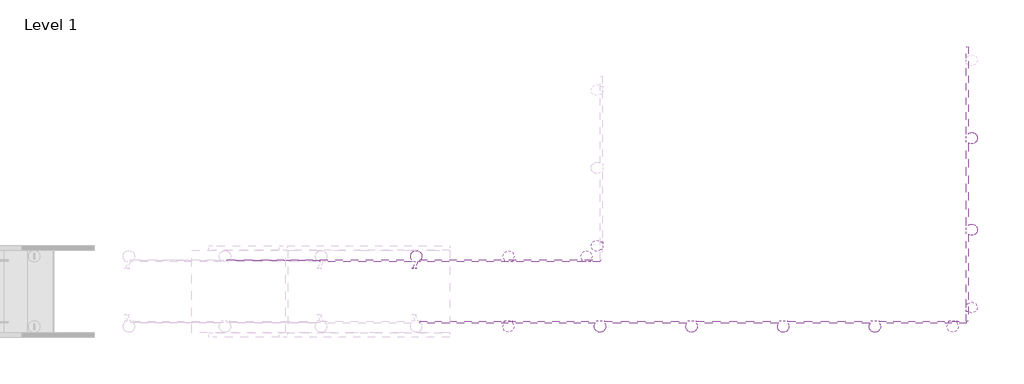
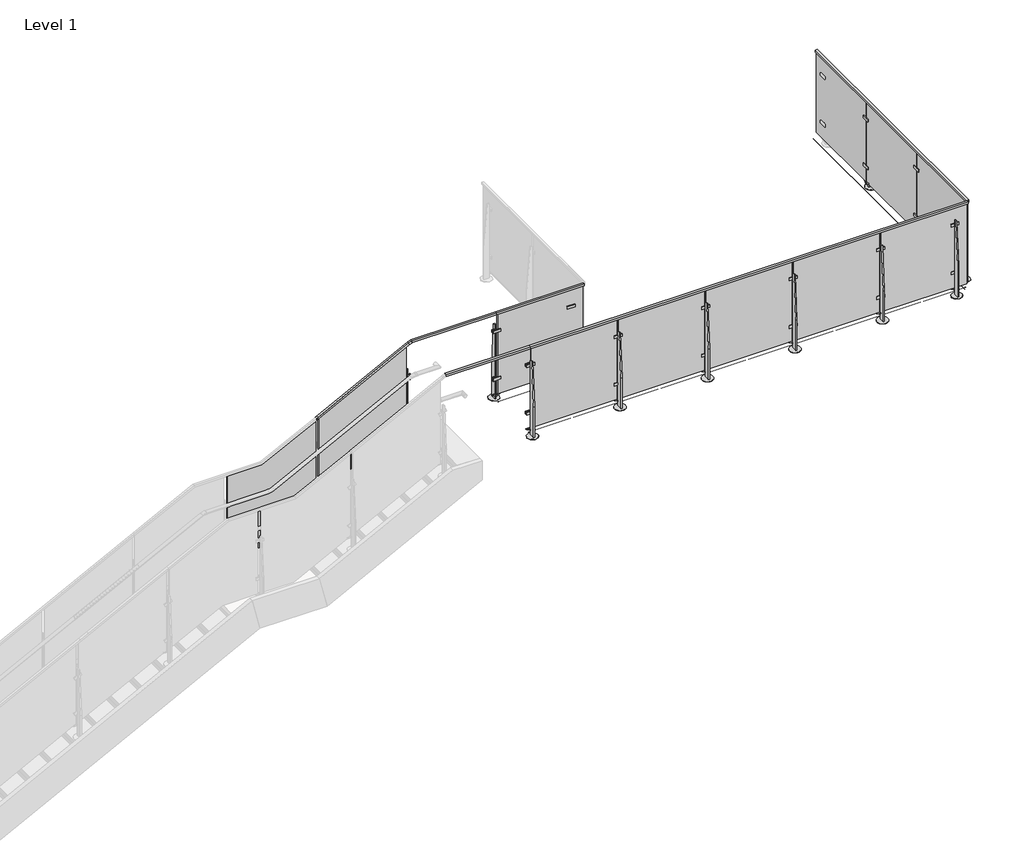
# One storey, part 8 of 37: 6 proxies, 5 railings.
"""IFC4 building model written with IfcOpenShell, lengths in millimetres."""

from ifc_helpers import new_model, si_unit, point, frame, frame_2d, origin, place, context, project, spatial, polyline, circle_curve, trimmed, segment, composite_curve, outline, extrude, faceted_brep, transform, mapped, element, save
from components import baluster_end_post_viva_solo_top_mount_e69dec62, baluster_end_post_viva_solo_top_mount_768039ba, baluster_end_post_viva_solo_top_mount_156321c6, baluster_end_post_viva_solo_top_mount_7846b30d, baluster_landing_panel_viva_solo_upper_standard_glass_b2789405

model = new_model("IFC4")

# Units and contexts
model_context = context("Model", 3, world=origin())
ifc_project = project(units=[si_unit("LENGTHUNIT", "METRE", prefix="MILLI")], contexts=[model_context])

# Site, building, storey
site = spatial("IfcSite", under=ifc_project)
building = spatial("IfcBuilding", under=site)
storey = spatial("IfcBuildingStorey", under=building, Name="Level 1", Elevation=0.0)

# Proxies
placement = place(None, origin())
baluster_end_post_viva_solo_top_mount_shape = baluster_end_post_viva_solo_top_mount_e69dec62(model_context)
element("IfcBuildingElementProxy", 1, Name="Baluster-End-Post-VIVA-SOLO-Top Mount : CORED INTO CONCRETE_TOP MOUNT FOLD_STRAIGHT", ObjectType="Baluster-End-Post-VIVA-SOLO-Top Mount : CORED INTO CONCRETE_TOP MOUNT FOLD_STRAIGHT", at=placement, inside=storey, context=model_context, shape_type="MappedRepresentation", body=[
    mapped(baluster_end_post_viva_solo_top_mount_shape, transform((10503.9347137, -4887.3528686, 3047.492), x_axis=(0.0, -1.0, 0.0), y_axis=(1.0, 0.0, 0.0), z_axis=(0.0, 0.0, 1.0))),
])
element("IfcBuildingElementProxy", 2, Name="Baluster-End-Post-VIVA-SOLO-Top Mount : CORED INTO CONCRETE_TOP MOUNT FOLD_STRAIGHT", ObjectType="Baluster-End-Post-VIVA-SOLO-Top Mount : CORED INTO CONCRETE_TOP MOUNT FOLD_STRAIGHT", at=placement, inside=storey, context=model_context, shape_type="MappedRepresentation", body=[
    mapped(baluster_end_post_viva_solo_top_mount_shape, transform((14519.1846052, -5548.0703686, 3047.492), x_axis=(1.0, 0.0, 0.0), y_axis=(0.0, 1.0, 0.0), z_axis=(0.0, 0.0, 1.0))),
])
baluster_end_post_viva_solo_top_mount_2_shape = baluster_end_post_viva_solo_top_mount_768039ba(model_context)
element("IfcBuildingElementProxy", 3, Name="Baluster-End-Post-VIVA-SOLO-Top Mount : CORED INTO CONCRETE_TOP MOUNT FOLD_STRAIGHT", ObjectType="Baluster-End-Post-VIVA-SOLO-Top Mount : CORED INTO CONCRETE_TOP MOUNT FOLD_STRAIGHT", at=placement, inside=storey, context=model_context, shape_type="MappedRepresentation", body=[
    mapped(baluster_end_post_viva_solo_top_mount_2_shape, transform((9439.1846052, -5548.0703686, 3047.492), x_axis=(1.0, 0.0, 0.0), y_axis=(0.0, 1.0, 0.0), z_axis=(0.0, 0.0, 1.0))),
])
baluster_end_post_viva_solo_top_mount_3_shape = baluster_end_post_viva_solo_top_mount_156321c6(model_context)
element("IfcBuildingElementProxy", 4, Name="Baluster-End-Post-VIVA-SOLO-Top Mount : CORED INTO CONCRETE_TOP MOUNT FOLD_STRAIGHT", ObjectType="Baluster-End-Post-VIVA-SOLO-Top Mount : CORED INTO CONCRETE_TOP MOUNT FOLD_STRAIGHT", at=placement, inside=storey, context=model_context, shape_type="MappedRepresentation", body=[
    mapped(baluster_end_post_viva_solo_top_mount_3_shape, transform((9440.6272137, -4934.6603686, 3047.492), x_axis=(-1.0, 0.0, 0.0), y_axis=(0.0, -1.0, 0.0), z_axis=(0.0, 0.0, 1.0))),
])
baluster_end_post_viva_solo_top_mount_4_shape = baluster_end_post_viva_solo_top_mount_7846b30d(model_context)
element("IfcBuildingElementProxy", 5, Name="Baluster-End-Post-VIVA-SOLO-Top Mount : CORED INTO CONCRETE_TOP MOUNT FOLD_STRAIGHT", ObjectType="Baluster-End-Post-VIVA-SOLO-Top Mount : CORED INTO CONCRETE_TOP MOUNT FOLD_STRAIGHT", at=placement, inside=storey, context=model_context, shape_type="MappedRepresentation", body=[
    mapped(baluster_end_post_viva_solo_top_mount_4_shape, transform((14494.1021052, -5573.1528686, 3047.492), x_axis=(0.0, 1.0, 0.0), y_axis=(-1.0, 0.0, 0.0), z_axis=(0.0, 0.0, 1.0))),
])
element("IfcBuildingElementProxy", 6, Name="Baluster-End-Post-VIVA-SOLO-Top Mount : CORED INTO CONCRETE_TOP MOUNT FOLD_STRAIGHT", ObjectType="Baluster-End-Post-VIVA-SOLO-Top Mount : CORED INTO CONCRETE_TOP MOUNT FOLD_STRAIGHT", at=placement, inside=storey, context=model_context, shape_type="MappedRepresentation", body=[
    mapped(baluster_end_post_viva_solo_top_mount_4_shape, transform((10456.6272137, -4934.6603686, 3047.492), x_axis=(-1.0, 0.0, 0.0), y_axis=(0.0, -1.0, 0.0), z_axis=(0.0, 0.0, 1.0))),
])

# Railings
element("IfcRailing", 7, ObjectType="VIVA-SOLO-Glass-Coor Mount-Stair_Left_Upper", at=placement, inside=storey, context=model_context, shape_type="SolidModel", body=[
    faceted_brep([(7349.3873344, -4909.5778686, 3564.4038176), (7349.3873344, -4887.3528686, 3564.4038176), (7349.3873344, -4887.3528686, 3535.902629), (7349.3873344, -4892.1153686, 3535.902629), (7349.3873344, -4892.1153686, 3559.0598447), (7349.3873344, -4904.8153686, 3559.0598447), (7349.3873344, -4904.8153686, 3535.902629), (7349.3873344, -4909.5778686, 3535.902629), (8416.1873344, -4909.5778686, 4107.4197243), (8416.1873344, -4887.3528686, 4107.4197243), (8427.7094971, -4887.3528686, 4084.7834754), (8427.7094971, -4892.1153686, 4084.7834754), (8418.3477399, -4892.1153686, 4103.1754276), (8418.3477399, -4904.8153686, 4103.1754276), (8427.7094971, -4904.8153686, 4084.7834754), (8427.7094971, -4909.5778686, 4084.7834754), (8455.6367094, -4909.5778686, 4127.5), (8455.6367094, -4909.5778686, 4098.9988114), (8455.6367094, -4904.8153686, 4098.9988114), (8455.6367094, -4904.8153686, 4122.1560271), (8455.6367094, -4892.1153686, 4122.1560271), (8455.6367094, -4892.1153686, 4098.9988114), (8455.6367094, -4887.3528686, 4098.9988114), (8455.6367094, -4887.3528686, 4127.5)], [[[0, 1, 2, 3, 4, 5, 6, 7]], [[1, 0, 8, 9]], [[2, 1, 9, 10]], [[3, 2, 10, 11]], [[4, 3, 11, 12]], [[5, 4, 12, 13]], [[6, 5, 13, 14]], [[7, 6, 14, 15]], [[0, 7, 15, 8]], [[16, 17, 18, 19, 20, 21, 22, 23]], [[9, 8, 16, 23]], [[10, 9, 23, 22]], [[11, 10, 22, 21]], [[12, 11, 21, 20]], [[13, 12, 20, 19]], [[14, 13, 19, 18]], [[15, 14, 18, 17]], [[8, 15, 17, 16]]]),
    extrude(outline(polyline([(4089.1567741, 8391.170381), (3571.9987678, 7375.170381), (2544.2557794, 7375.170381), (3061.4137858, 8391.170381), (4089.1567741, 8391.170381)])), frame((0.0, -4904.8153686, 0.0), z_axis=(0.0, 1.0, 0.0), x_axis=(0.0, 0.0, 1.0)), (0.0, 0.0, 1.0), 12.7),
    extrude(outline(polyline([(-12.7, 0.0), (0.0, 0.0), (0.0, -3.175), (58.7375, -34.925), (61.9125, -34.925), (61.9125, -65.0875), (50.8, -65.0875), (-12.7, -3.175), (-12.7, 0.0)])), frame((8388.558695, -4976.2528686, 3722.3421402), z_axis=(0.8987940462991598, 0.0, 0.4383711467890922), x_axis=(0.0, 1.0, 0.0)), (0.0, 0.0, 1.0), 12.7),
    extrude(outline(polyline([(-4882.5903686, 3777.2197243), (-4857.1903686, 3777.2197243), (-4819.0903686, 3243.8197243), (-4819.0903686, 2915.4782609), (-4882.5903686, 2915.4782609), (-4882.5903686, 3777.2197243)])), frame((8409.8373344, 0.0, 0.0), z_axis=(1.0, 0.0, 0.0), x_axis=(0.0, 1.0, 0.0)), (0.0, 0.0, 1.0), 12.7),
    extrude(outline(polyline([(0.0, 88.9), (9.525, 88.9), (9.525, 0.0), (0.0, 0.0), (0.0, 88.9)])), frame((8463.0978717, -4914.3403686, 3685.3977192), z_axis=(-0.4383711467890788, 0.0, 0.8987940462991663), x_axis=(0.0, 1.0, 0.0)), (0.0, 0.0, 1.0), 31.75),
    extrude(outline(polyline([(0.0, 88.9), (9.525, 88.9), (9.525, 0.0), (0.0, 0.0), (0.0, 88.9)])), frame((8463.0978717, -4892.1153686, 3685.3977192), z_axis=(-0.4383711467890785, 0.0, 0.8987940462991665), x_axis=(0.0, 1.0, 0.0)), (0.0, 0.0, 1.0), 31.75),
    extrude(outline(polyline([(0.0, 88.9), (9.525, 88.9), (9.525, 0.0), (0.0, 0.0), (0.0, 88.9)])), frame((8463.0978717, -4892.1153686, 3211.4811682), z_axis=(-0.43837114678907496, 0.0, 0.8987940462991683), x_axis=(0.0, 1.0, 0.0)), (0.0, 0.0, 1.0), 31.75),
    extrude(outline(polyline([(0.0, 88.9), (9.525, 88.9), (9.525, 0.0), (0.0, 0.0), (0.0, 88.9)])), frame((8463.0978717, -4914.3403686, 3211.4811682), z_axis=(-0.4383711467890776, 0.0, 0.8987940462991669), x_axis=(0.0, 1.0, 0.0)), (0.0, 0.0, 1.0), 31.75),
    extrude(outline(polyline([(3077.9924831, 8451.9492571), (3083.6998253, 8449.1656003), (3044.7286304, 8369.2628096), (3039.0212882, 8372.0464664), (3038.8101298, 8421.6046114), (3077.9924831, 8451.9492571)])), frame((0.0, -4904.8153686, 0.0), z_axis=(0.0, 1.0, 0.0), x_axis=(0.0, 0.0, 1.0)), (0.0, 0.0, 1.0), 12.7),
    extrude(outline(composite_curve([segment(trimmed(circle_curve(frame_2d((24.5007933, -6.6985914)), 25.4), [point((0.0, 0.0))], [point((6.4034746, 11.1240644))], False, "CARTESIAN"), True, "CONTINUOUS"), segment(polyline([(6.4034746, 11.1240644), (8.7901892, 9.7460941)]), True, "CONTINUOUS"), segment(trimmed(circle_curve(frame_2d((26.8875078, -8.0765617)), 25.4), [point((8.7901892, 9.7460941))], [point((2.8057896, 0.0))], True, "CARTESIAN"), True, "CONTINUOUS"), segment(polyline([(2.8057896, 0.0), (0.0, 0.0)]), True, "CONTINUOUS")], self_intersect=False)), frame((8372.6375775, -4976.1536223, 3711.5289415), z_axis=(0.8987940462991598, 0.0, 0.4383711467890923), x_axis=(-0.37964054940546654, -0.500000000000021, 0.7783784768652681)), (0.0, 0.0, 1.0), 50.8),
    extrude(outline(composite_curve([segment(trimmed(circle_curve(frame_2d((8416.1873344, -4850.8403686)), 63.5), [point((8416.1873344, -4787.3403686))], [point((8416.1873344, -4914.3403686))], False, "CARTESIAN"), True, "CONTINUOUS"), segment(trimmed(circle_curve(frame_2d((8416.1873344, -4850.8403686)), 63.5), [point((8416.1873344, -4914.3403686))], [point((8416.1873344, -4787.3403686))], False, "CARTESIAN"), True, "CONTINUOUS")], self_intersect=False)), frame((0.0, 0.0, 2915.4782609), z_axis=(0.0, 0.0, 1.0), x_axis=(1.0, 0.0, 0.0)), (0.0, 0.0, 1.0), 3.175),
    extrude(outline(composite_curve([segment(trimmed(circle_curve(frame_2d((3207.3242609, 8416.1873344)), 6.35), [point((3207.3242609, 8422.5373344))], [point((3207.3242609, 8409.8373344))], False, "CARTESIAN"), True, "CONTINUOUS"), segment(trimmed(circle_curve(frame_2d((3207.3242609, 8416.1873344)), 6.35), [point((3207.3242609, 8409.8373344))], [point((3207.3242609, 8422.5373344))], False, "CARTESIAN"), True, "CONTINUOUS")], self_intersect=False)), frame((0.0, -4904.8153686, 0.0), z_axis=(0.0, 1.0, 0.0), x_axis=(0.0, 0.0, 1.0)), (0.0, 0.0, 1.0), 12.7),
    extrude(outline(composite_curve([segment(trimmed(circle_curve(frame_2d((3680.1804772, 8416.1873344)), 6.35), [point((3680.1804772, 8422.5373344))], [point((3680.1804772, 8409.8373344))], False, "CARTESIAN"), True, "CONTINUOUS"), segment(trimmed(circle_curve(frame_2d((3680.1804772, 8416.1873344)), 6.35), [point((3680.1804772, 8409.8373344))], [point((3680.1804772, 8422.5373344))], False, "CARTESIAN"), True, "CONTINUOUS")], self_intersect=False)), frame((0.0, -4904.8153686, 0.0), z_axis=(0.0, 1.0, 0.0), x_axis=(0.0, 0.0, 1.0)), (0.0, 0.0, 1.0), 12.7),
    extrude(outline(composite_curve([segment(trimmed(circle_curve(frame_2d((3050.0051198, 8416.1873344)), 11.1125), [point((3050.0051198, 8427.2998344))], [point((3050.0051198, 8405.0748344))], False, "CARTESIAN"), True, "CONTINUOUS"), segment(trimmed(circle_curve(frame_2d((3050.0051198, 8416.1873344)), 11.1125), [point((3050.0051198, 8405.0748344))], [point((3050.0051198, 8427.2998344))], False, "CARTESIAN"), True, "CONTINUOUS")], self_intersect=False)), frame((0.0, -4907.9903686, 0.0), z_axis=(0.0, 1.0, 0.0), x_axis=(0.0, 0.0, 1.0)), (0.0, 0.0, 1.0), 25.4),
])
baluster_landing_panel_viva_solo_upper_standard_glass_shape = baluster_landing_panel_viva_solo_upper_standard_glass_b2789405(model_context)
element("IfcRailing", 8, ObjectType="Baluster-Landing-Panel-VIVA-SOLO-Upper : Standard_Glass", at=placement, inside=storey, context=model_context, shape_type="MappedRepresentation", body=[
    mapped(baluster_landing_panel_viva_solo_upper_standard_glass_shape, transform((7346.0498081, -4860.5076394, 2120.3478261), x_axis=(0.0, -1.0, 0.0), y_axis=(1.0, 0.0, 0.0), z_axis=(0.0, 0.0, 1.0))),
])
element("IfcRailing", 9, ObjectType="VIVA-SOLO-Glass-Core Mount-Straight", at=placement, inside=storey, context=model_context, shape_type="SolidModel", body=[
    extrude(outline(composite_curve([segment(trimmed(circle_curve(frame_2d((-5548.0703686, 3047.746)), 0.254), [point((-5548.3243686, 3047.746))], [point((-5547.8163686, 3047.746))], False, "CARTESIAN"), True, "CONTINUOUS"), segment(trimmed(circle_curve(frame_2d((-5548.0703686, 3047.746)), 0.254), [point((-5547.8163686, 3047.746))], [point((-5548.3243686, 3047.746))], False, "CARTESIAN"), True, "CONTINUOUS")], self_intersect=False)), frame((9439.1846052, 0.0, 0.0), z_axis=(1.0, 0.0, 0.0), x_axis=(0.0, 1.0, 0.0)), (0.0, 0.0, 1.0), 5080.0),
    extrude(outline(composite_curve([segment(trimmed(circle_curve(frame_2d((-5548.0703686, 3047.746)), 0.254), [point((-5548.3243686, 3047.746))], [point((-5547.8163686, 3047.746))], False, "CARTESIAN"), True, "CONTINUOUS"), segment(trimmed(circle_curve(frame_2d((-5548.0703686, 3047.746)), 0.254), [point((-5547.8163686, 3047.746))], [point((-5548.3243686, 3047.746))], False, "CARTESIAN"), True, "CONTINUOUS")], self_intersect=False)), frame((9439.1846052, 0.0, 0.0), z_axis=(1.0, 0.0, 0.0), x_axis=(0.0, 1.0, 0.0)), (0.0, 0.0, 1.0), 5080.0),
    faceted_brep([(14519.1846052, -5595.3778686, 4127.5), (14519.1846052, -5595.3778686, 4102.1), (14519.1846052, -5590.6153686, 4102.1), (14519.1846052, -5590.6153686, 4122.7375), (14519.1846052, -5577.9153686, 4122.7375), (14519.1846052, -5577.9153686, 4102.1), (14519.1846052, -5573.1528686, 4102.1), (14519.1846052, -5573.1528686, 4127.5), (9439.1846052, -5573.1528686, 4127.5), (9439.1846052, -5595.3778686, 4127.5), (9439.1846052, -5573.1528686, 4102.1), (9439.1846052, -5577.9153686, 4102.1), (9439.1846052, -5577.9153686, 4122.7375), (9439.1846052, -5590.6153686, 4122.7375), (9439.1846052, -5590.6153686, 4102.1), (9439.1846052, -5595.3778686, 4102.1), (8455.6367094, -5595.3778686, 4127.5), (8455.6367094, -5573.1528686, 4127.5), (8455.6367094, -5573.1528686, 4102.1), (8455.6367094, -5577.9153686, 4102.1), (8455.6367094, -5577.9153686, 4122.7375), (8455.6367094, -5590.6153686, 4122.7375), (8455.6367094, -5590.6153686, 4102.1), (8455.6367094, -5595.3778686, 4102.1)], [[[0, 1, 2, 3, 4, 5, 6, 7]], [[8, 9, 0, 7]], [[10, 8, 7, 6]], [[11, 10, 6, 5]], [[12, 11, 5, 4]], [[13, 12, 4, 3]], [[14, 13, 3, 2]], [[15, 14, 2, 1]], [[9, 15, 1, 0]], [[16, 17, 18, 19, 20, 21, 22, 23]], [[17, 16, 9, 8]], [[18, 17, 8, 10]], [[19, 18, 10, 11]], [[20, 19, 11, 12]], [[21, 20, 12, 13]], [[22, 21, 13, 14]], [[23, 22, 14, 15]], [[16, 23, 15, 9]]]),
    extrude(outline(polyline([(13516.2676518, -5577.9153686), (14506.8676518, -5577.9153686), (14506.8676518, -5590.6153686), (13516.2676518, -5590.6153686), (13516.2676518, -5577.9153686)])), frame((0.0, 0.0, 3124.2), z_axis=(0.0, 0.0, 1.0), x_axis=(1.0, 0.0, 0.0)), (0.0, 0.0, 1.0), 998.474),
    extrude(outline(polyline([(-5600.1403686, 3962.4), (-5600.1403686, 3048.0), (-5663.6403686, 3048.0), (-5663.6403686, 3429.0), (-5625.5403686, 3962.4), (-5600.1403686, 3962.4)])), frame((13496.8346052, 0.0, 0.0), z_axis=(1.0, 0.0, 0.0), x_axis=(0.0, 1.0, 0.0)), (0.0, 0.0, 1.0), 12.7),
    extrude(outline(composite_curve([segment(trimmed(circle_curve(frame_2d((13503.1846052, -5631.8903686)), 63.5), [point((13503.1846052, -5695.3903686))], [point((13503.1846052, -5568.3903686))], False, "CARTESIAN"), True, "CONTINUOUS"), segment(trimmed(circle_curve(frame_2d((13503.1846052, -5631.8903686)), 63.5), [point((13503.1846052, -5568.3903686))], [point((13503.1846052, -5695.3903686))], False, "CARTESIAN"), True, "CONTINUOUS")], self_intersect=False)), frame((0.0, 0.0, 3048.0), z_axis=(0.0, 0.0, 1.0), x_axis=(1.0, 0.0, 0.0)), (0.0, 0.0, 1.0), 3.175),
    extrude(outline(polyline([(13458.7346052, -5590.6153686), (13547.6346052, -5590.6153686), (13547.6346052, -5600.1403686), (13458.7346052, -5600.1403686), (13458.7346052, -5590.6153686)])), frame((0.0, 0.0, 3299.9910694), z_axis=(0.0, 0.0, 1.0), x_axis=(1.0, 0.0, 0.0)), (0.0, 0.0, 1.0), 31.75),
    extrude(outline(polyline([(13458.7346052, -5590.6153686), (13547.6346052, -5590.6153686), (13547.6346052, -5600.1403686), (13458.7346052, -5600.1403686), (13458.7346052, -5590.6153686)])), frame((0.0, 0.0, 3886.2992187), z_axis=(0.0, 0.0, 1.0), x_axis=(1.0, 0.0, 0.0)), (0.0, 0.0, 1.0), 31.75),
    extrude(outline(polyline([(13458.7346052, -5568.3903686), (13547.6346052, -5568.3903686), (13547.6346052, -5577.9153686), (13458.7346052, -5577.9153686), (13458.7346052, -5568.3903686)])), frame((0.0, 0.0, 3299.9910694), z_axis=(0.0, 0.0, 1.0), x_axis=(1.0, 0.0, 0.0)), (0.0, 0.0, 1.0), 31.75),
    extrude(outline(polyline([(13458.7346052, -5568.3903686), (13547.6346052, -5568.3903686), (13547.6346052, -5577.9153686), (13458.7346052, -5577.9153686), (13458.7346052, -5568.3903686)])), frame((0.0, 0.0, 3886.2992187), z_axis=(0.0, 0.0, 1.0), x_axis=(1.0, 0.0, 0.0)), (0.0, 0.0, 1.0), 31.75),
    extrude(outline(polyline([(3124.2, 13547.6346052), (3124.2, 13458.7346052), (3117.85, 13458.7346052), (3095.9353513, 13503.1846052), (3117.85, 13547.6346052), (3124.2, 13547.6346052)])), frame((0.0, -5590.6153686, 0.0), z_axis=(0.0, 1.0, 0.0), x_axis=(0.0, 0.0, 1.0)), (0.0, 0.0, 1.0), 12.7),
    extrude(outline(composite_curve([segment(trimmed(circle_curve(frame_2d((3315.8660694, 13503.1846052)), 6.35), [point((3315.8660694, 13509.5346052))], [point((3315.8660694, 13496.8346052))], False, "CARTESIAN"), True, "CONTINUOUS"), segment(trimmed(circle_curve(frame_2d((3315.8660694, 13503.1846052)), 6.35), [point((3315.8660694, 13496.8346052))], [point((3315.8660694, 13509.5346052))], False, "CARTESIAN"), True, "CONTINUOUS")], self_intersect=False)), frame((0.0, -5590.6153686, 0.0), z_axis=(0.0, 1.0, 0.0), x_axis=(0.0, 0.0, 1.0)), (0.0, 0.0, 1.0), 12.7),
    extrude(outline(composite_curve([segment(trimmed(circle_curve(frame_2d((3902.1742187, 13503.1846052)), 6.35), [point((3902.1742187, 13509.5346052))], [point((3902.1742187, 13496.8346052))], False, "CARTESIAN"), True, "CONTINUOUS"), segment(trimmed(circle_curve(frame_2d((3902.1742187, 13503.1846052)), 6.35), [point((3902.1742187, 13496.8346052))], [point((3902.1742187, 13509.5346052))], False, "CARTESIAN"), True, "CONTINUOUS")], self_intersect=False)), frame((0.0, -5590.6153686, 0.0), z_axis=(0.0, 1.0, 0.0), x_axis=(0.0, 0.0, 1.0)), (0.0, 0.0, 1.0), 12.7),
    extrude(outline(composite_curve([segment(trimmed(circle_curve(frame_2d((3108.325, 13503.1846052)), 11.1125), [point((3108.325, 13514.2971052))], [point((3108.325, 13492.0721052))], False, "CARTESIAN"), True, "CONTINUOUS"), segment(trimmed(circle_curve(frame_2d((3108.325, 13503.1846052)), 11.1125), [point((3108.325, 13492.0721052))], [point((3108.325, 13514.2971052))], False, "CARTESIAN"), True, "CONTINUOUS")], self_intersect=False)), frame((0.0, -5600.1403686, 0.0), z_axis=(0.0, 1.0, 0.0), x_axis=(0.0, 0.0, 1.0)), (0.0, 0.0, 1.0), 25.4),
    extrude(outline(polyline([(12500.2676518, -5577.9153686), (13490.8676518, -5577.9153686), (13490.8676518, -5590.6153686), (12500.2676518, -5590.6153686), (12500.2676518, -5577.9153686)])), frame((0.0, 0.0, 3124.2), z_axis=(0.0, 0.0, 1.0), x_axis=(1.0, 0.0, 0.0)), (0.0, 0.0, 1.0), 998.474),
    extrude(outline(polyline([(-5600.1403686, 3962.4), (-5600.1403686, 3048.0), (-5663.6403686, 3048.0), (-5663.6403686, 3429.0), (-5625.5403686, 3962.4), (-5600.1403686, 3962.4)])), frame((12480.8346052, 0.0, 0.0), z_axis=(1.0, 0.0, 0.0), x_axis=(0.0, 1.0, 0.0)), (0.0, 0.0, 1.0), 12.7),
    extrude(outline(composite_curve([segment(trimmed(circle_curve(frame_2d((12487.1846052, -5631.8903686)), 63.5), [point((12487.1846052, -5695.3903686))], [point((12487.1846052, -5568.3903686))], False, "CARTESIAN"), True, "CONTINUOUS"), segment(trimmed(circle_curve(frame_2d((12487.1846052, -5631.8903686)), 63.5), [point((12487.1846052, -5568.3903686))], [point((12487.1846052, -5695.3903686))], False, "CARTESIAN"), True, "CONTINUOUS")], self_intersect=False)), frame((0.0, 0.0, 3048.0), z_axis=(0.0, 0.0, 1.0), x_axis=(1.0, 0.0, 0.0)), (0.0, 0.0, 1.0), 3.175),
    extrude(outline(polyline([(12442.7346052, -5590.6153686), (12531.6346052, -5590.6153686), (12531.6346052, -5600.1403686), (12442.7346052, -5600.1403686), (12442.7346052, -5590.6153686)])), frame((0.0, 0.0, 3299.9910694), z_axis=(0.0, 0.0, 1.0), x_axis=(1.0, 0.0, 0.0)), (0.0, 0.0, 1.0), 31.75),
    extrude(outline(polyline([(12442.7346052, -5590.6153686), (12531.6346052, -5590.6153686), (12531.6346052, -5600.1403686), (12442.7346052, -5600.1403686), (12442.7346052, -5590.6153686)])), frame((0.0, 0.0, 3886.2992187), z_axis=(0.0, 0.0, 1.0), x_axis=(1.0, 0.0, 0.0)), (0.0, 0.0, 1.0), 31.75),
    extrude(outline(polyline([(12442.7346052, -5568.3903686), (12531.6346052, -5568.3903686), (12531.6346052, -5577.9153686), (12442.7346052, -5577.9153686), (12442.7346052, -5568.3903686)])), frame((0.0, 0.0, 3299.9910694), z_axis=(0.0, 0.0, 1.0), x_axis=(1.0, 0.0, 0.0)), (0.0, 0.0, 1.0), 31.75),
    extrude(outline(polyline([(12442.7346052, -5568.3903686), (12531.6346052, -5568.3903686), (12531.6346052, -5577.9153686), (12442.7346052, -5577.9153686), (12442.7346052, -5568.3903686)])), frame((0.0, 0.0, 3886.2992187), z_axis=(0.0, 0.0, 1.0), x_axis=(1.0, 0.0, 0.0)), (0.0, 0.0, 1.0), 31.75),
    extrude(outline(polyline([(3124.2, 12531.6346052), (3124.2, 12442.7346052), (3117.85, 12442.7346052), (3095.9353513, 12487.1846052), (3117.85, 12531.6346052), (3124.2, 12531.6346052)])), frame((0.0, -5590.6153686, 0.0), z_axis=(0.0, 1.0, 0.0), x_axis=(0.0, 0.0, 1.0)), (0.0, 0.0, 1.0), 12.7),
    extrude(outline(composite_curve([segment(trimmed(circle_curve(frame_2d((3315.8660694, 12487.1846052)), 6.35), [point((3315.8660694, 12493.5346052))], [point((3315.8660694, 12480.8346052))], False, "CARTESIAN"), True, "CONTINUOUS"), segment(trimmed(circle_curve(frame_2d((3315.8660694, 12487.1846052)), 6.35), [point((3315.8660694, 12480.8346052))], [point((3315.8660694, 12493.5346052))], False, "CARTESIAN"), True, "CONTINUOUS")], self_intersect=False)), frame((0.0, -5590.6153686, 0.0), z_axis=(0.0, 1.0, 0.0), x_axis=(0.0, 0.0, 1.0)), (0.0, 0.0, 1.0), 12.7),
    extrude(outline(composite_curve([segment(trimmed(circle_curve(frame_2d((3902.1742187, 12487.1846052)), 6.35), [point((3902.1742187, 12493.5346052))], [point((3902.1742187, 12480.8346052))], False, "CARTESIAN"), True, "CONTINUOUS"), segment(trimmed(circle_curve(frame_2d((3902.1742187, 12487.1846052)), 6.35), [point((3902.1742187, 12480.8346052))], [point((3902.1742187, 12493.5346052))], False, "CARTESIAN"), True, "CONTINUOUS")], self_intersect=False)), frame((0.0, -5590.6153686, 0.0), z_axis=(0.0, 1.0, 0.0), x_axis=(0.0, 0.0, 1.0)), (0.0, 0.0, 1.0), 12.7),
    extrude(outline(composite_curve([segment(trimmed(circle_curve(frame_2d((3108.325, 12487.1846052)), 11.1125), [point((3108.325, 12498.2971052))], [point((3108.325, 12476.0721052))], False, "CARTESIAN"), True, "CONTINUOUS"), segment(trimmed(circle_curve(frame_2d((3108.325, 12487.1846052)), 11.1125), [point((3108.325, 12476.0721052))], [point((3108.325, 12498.2971052))], False, "CARTESIAN"), True, "CONTINUOUS")], self_intersect=False)), frame((0.0, -5600.1403686, 0.0), z_axis=(0.0, 1.0, 0.0), x_axis=(0.0, 0.0, 1.0)), (0.0, 0.0, 1.0), 25.4),
    extrude(outline(polyline([(11484.2676518, -5577.9153686), (12474.8676518, -5577.9153686), (12474.8676518, -5590.6153686), (11484.2676518, -5590.6153686), (11484.2676518, -5577.9153686)])), frame((0.0, 0.0, 3124.2), z_axis=(0.0, 0.0, 1.0), x_axis=(1.0, 0.0, 0.0)), (0.0, 0.0, 1.0), 998.474),
    extrude(outline(polyline([(-5600.1403686, 3962.4), (-5600.1403686, 3048.0), (-5663.6403686, 3048.0), (-5663.6403686, 3429.0), (-5625.5403686, 3962.4), (-5600.1403686, 3962.4)])), frame((11464.8346052, 0.0, 0.0), z_axis=(1.0, 0.0, 0.0), x_axis=(0.0, 1.0, 0.0)), (0.0, 0.0, 1.0), 12.7),
    extrude(outline(composite_curve([segment(trimmed(circle_curve(frame_2d((11471.1846052, -5631.8903686)), 63.5), [point((11471.1846052, -5695.3903686))], [point((11471.1846052, -5568.3903686))], False, "CARTESIAN"), True, "CONTINUOUS"), segment(trimmed(circle_curve(frame_2d((11471.1846052, -5631.8903686)), 63.5), [point((11471.1846052, -5568.3903686))], [point((11471.1846052, -5695.3903686))], False, "CARTESIAN"), True, "CONTINUOUS")], self_intersect=False)), frame((0.0, 0.0, 3048.0), z_axis=(0.0, 0.0, 1.0), x_axis=(1.0, 0.0, 0.0)), (0.0, 0.0, 1.0), 3.175),
    extrude(outline(polyline([(11426.7346052, -5590.6153686), (11515.6346052, -5590.6153686), (11515.6346052, -5600.1403686), (11426.7346052, -5600.1403686), (11426.7346052, -5590.6153686)])), frame((0.0, 0.0, 3299.9910694), z_axis=(0.0, 0.0, 1.0), x_axis=(1.0, 0.0, 0.0)), (0.0, 0.0, 1.0), 31.75),
    extrude(outline(polyline([(11426.7346052, -5590.6153686), (11515.6346052, -5590.6153686), (11515.6346052, -5600.1403686), (11426.7346052, -5600.1403686), (11426.7346052, -5590.6153686)])), frame((0.0, 0.0, 3886.2992187), z_axis=(0.0, 0.0, 1.0), x_axis=(1.0, 0.0, 0.0)), (0.0, 0.0, 1.0), 31.75),
    extrude(outline(polyline([(11426.7346052, -5568.3903686), (11515.6346052, -5568.3903686), (11515.6346052, -5577.9153686), (11426.7346052, -5577.9153686), (11426.7346052, -5568.3903686)])), frame((0.0, 0.0, 3299.9910694), z_axis=(0.0, 0.0, 1.0), x_axis=(1.0, 0.0, 0.0)), (0.0, 0.0, 1.0), 31.75),
    extrude(outline(polyline([(11426.7346052, -5568.3903686), (11515.6346052, -5568.3903686), (11515.6346052, -5577.9153686), (11426.7346052, -5577.9153686), (11426.7346052, -5568.3903686)])), frame((0.0, 0.0, 3886.2992187), z_axis=(0.0, 0.0, 1.0), x_axis=(1.0, 0.0, 0.0)), (0.0, 0.0, 1.0), 31.75),
    extrude(outline(polyline([(3124.2, 11515.6346052), (3124.2, 11426.7346052), (3117.85, 11426.7346052), (3095.9353513, 11471.1846052), (3117.85, 11515.6346052), (3124.2, 11515.6346052)])), frame((0.0, -5590.6153686, 0.0), z_axis=(0.0, 1.0, 0.0), x_axis=(0.0, 0.0, 1.0)), (0.0, 0.0, 1.0), 12.7),
    extrude(outline(composite_curve([segment(trimmed(circle_curve(frame_2d((3315.8660694, 11471.1846052)), 6.35), [point((3315.8660694, 11477.5346052))], [point((3315.8660694, 11464.8346052))], False, "CARTESIAN"), True, "CONTINUOUS"), segment(trimmed(circle_curve(frame_2d((3315.8660694, 11471.1846052)), 6.35), [point((3315.8660694, 11464.8346052))], [point((3315.8660694, 11477.5346052))], False, "CARTESIAN"), True, "CONTINUOUS")], self_intersect=False)), frame((0.0, -5590.6153686, 0.0), z_axis=(0.0, 1.0, 0.0), x_axis=(0.0, 0.0, 1.0)), (0.0, 0.0, 1.0), 12.7),
    extrude(outline(composite_curve([segment(trimmed(circle_curve(frame_2d((3902.1742187, 11471.1846052)), 6.35), [point((3902.1742187, 11477.5346052))], [point((3902.1742187, 11464.8346052))], False, "CARTESIAN"), True, "CONTINUOUS"), segment(trimmed(circle_curve(frame_2d((3902.1742187, 11471.1846052)), 6.35), [point((3902.1742187, 11464.8346052))], [point((3902.1742187, 11477.5346052))], False, "CARTESIAN"), True, "CONTINUOUS")], self_intersect=False)), frame((0.0, -5590.6153686, 0.0), z_axis=(0.0, 1.0, 0.0), x_axis=(0.0, 0.0, 1.0)), (0.0, 0.0, 1.0), 12.7),
    extrude(outline(composite_curve([segment(trimmed(circle_curve(frame_2d((3108.325, 11471.1846052)), 11.1125), [point((3108.325, 11482.2971052))], [point((3108.325, 11460.0721052))], False, "CARTESIAN"), True, "CONTINUOUS"), segment(trimmed(circle_curve(frame_2d((3108.325, 11471.1846052)), 11.1125), [point((3108.325, 11460.0721052))], [point((3108.325, 11482.2971052))], False, "CARTESIAN"), True, "CONTINUOUS")], self_intersect=False)), frame((0.0, -5600.1403686, 0.0), z_axis=(0.0, 1.0, 0.0), x_axis=(0.0, 0.0, 1.0)), (0.0, 0.0, 1.0), 25.4),
    extrude(outline(polyline([(10468.2676518, -5577.9153686), (11458.8676518, -5577.9153686), (11458.8676518, -5590.6153686), (10468.2676518, -5590.6153686), (10468.2676518, -5577.9153686)])), frame((0.0, 0.0, 3124.2), z_axis=(0.0, 0.0, 1.0), x_axis=(1.0, 0.0, 0.0)), (0.0, 0.0, 1.0), 998.474),
    extrude(outline(polyline([(-5600.1403686, 3962.4), (-5600.1403686, 3048.0), (-5663.6403686, 3048.0), (-5663.6403686, 3429.0), (-5625.5403686, 3962.4), (-5600.1403686, 3962.4)])), frame((10448.8346052, 0.0, 0.0), z_axis=(1.0, 0.0, 0.0), x_axis=(0.0, 1.0, 0.0)), (0.0, 0.0, 1.0), 12.7),
    extrude(outline(composite_curve([segment(trimmed(circle_curve(frame_2d((10455.1846052, -5631.8903686)), 63.5), [point((10455.1846052, -5695.3903686))], [point((10455.1846052, -5568.3903686))], False, "CARTESIAN"), True, "CONTINUOUS"), segment(trimmed(circle_curve(frame_2d((10455.1846052, -5631.8903686)), 63.5), [point((10455.1846052, -5568.3903686))], [point((10455.1846052, -5695.3903686))], False, "CARTESIAN"), True, "CONTINUOUS")], self_intersect=False)), frame((0.0, 0.0, 3048.0), z_axis=(0.0, 0.0, 1.0), x_axis=(1.0, 0.0, 0.0)), (0.0, 0.0, 1.0), 3.175),
    extrude(outline(polyline([(10410.7346052, -5590.6153686), (10499.6346052, -5590.6153686), (10499.6346052, -5600.1403686), (10410.7346052, -5600.1403686), (10410.7346052, -5590.6153686)])), frame((0.0, 0.0, 3299.9910694), z_axis=(0.0, 0.0, 1.0), x_axis=(1.0, 0.0, 0.0)), (0.0, 0.0, 1.0), 31.75),
    extrude(outline(polyline([(10410.7346052, -5590.6153686), (10499.6346052, -5590.6153686), (10499.6346052, -5600.1403686), (10410.7346052, -5600.1403686), (10410.7346052, -5590.6153686)])), frame((0.0, 0.0, 3886.2992187), z_axis=(0.0, 0.0, 1.0), x_axis=(1.0, 0.0, 0.0)), (0.0, 0.0, 1.0), 31.75),
    extrude(outline(polyline([(10410.7346052, -5568.3903686), (10499.6346052, -5568.3903686), (10499.6346052, -5577.9153686), (10410.7346052, -5577.9153686), (10410.7346052, -5568.3903686)])), frame((0.0, 0.0, 3299.9910694), z_axis=(0.0, 0.0, 1.0), x_axis=(1.0, 0.0, 0.0)), (0.0, 0.0, 1.0), 31.75),
    extrude(outline(polyline([(10410.7346052, -5568.3903686), (10499.6346052, -5568.3903686), (10499.6346052, -5577.9153686), (10410.7346052, -5577.9153686), (10410.7346052, -5568.3903686)])), frame((0.0, 0.0, 3886.2992187), z_axis=(0.0, 0.0, 1.0), x_axis=(1.0, 0.0, 0.0)), (0.0, 0.0, 1.0), 31.75),
    extrude(outline(polyline([(3124.2, 10499.6346052), (3124.2, 10410.7346052), (3117.85, 10410.7346052), (3095.9353513, 10455.1846052), (3117.85, 10499.6346052), (3124.2, 10499.6346052)])), frame((0.0, -5590.6153686, 0.0), z_axis=(0.0, 1.0, 0.0), x_axis=(0.0, 0.0, 1.0)), (0.0, 0.0, 1.0), 12.7),
    extrude(outline(composite_curve([segment(trimmed(circle_curve(frame_2d((3315.8660694, 10455.1846052)), 6.35), [point((3315.8660694, 10461.5346052))], [point((3315.8660694, 10448.8346052))], False, "CARTESIAN"), True, "CONTINUOUS"), segment(trimmed(circle_curve(frame_2d((3315.8660694, 10455.1846052)), 6.35), [point((3315.8660694, 10448.8346052))], [point((3315.8660694, 10461.5346052))], False, "CARTESIAN"), True, "CONTINUOUS")], self_intersect=False)), frame((0.0, -5590.6153686, 0.0), z_axis=(0.0, 1.0, 0.0), x_axis=(0.0, 0.0, 1.0)), (0.0, 0.0, 1.0), 12.7),
    extrude(outline(composite_curve([segment(trimmed(circle_curve(frame_2d((3902.1742187, 10455.1846052)), 6.35), [point((3902.1742187, 10461.5346052))], [point((3902.1742187, 10448.8346052))], False, "CARTESIAN"), True, "CONTINUOUS"), segment(trimmed(circle_curve(frame_2d((3902.1742187, 10455.1846052)), 6.35), [point((3902.1742187, 10448.8346052))], [point((3902.1742187, 10461.5346052))], False, "CARTESIAN"), True, "CONTINUOUS")], self_intersect=False)), frame((0.0, -5590.6153686, 0.0), z_axis=(0.0, 1.0, 0.0), x_axis=(0.0, 0.0, 1.0)), (0.0, 0.0, 1.0), 12.7),
    extrude(outline(composite_curve([segment(trimmed(circle_curve(frame_2d((3108.325, 10455.1846052)), 11.1125), [point((3108.325, 10466.2971052))], [point((3108.325, 10444.0721052))], False, "CARTESIAN"), True, "CONTINUOUS"), segment(trimmed(circle_curve(frame_2d((3108.325, 10455.1846052)), 11.1125), [point((3108.325, 10444.0721052))], [point((3108.325, 10466.2971052))], False, "CARTESIAN"), True, "CONTINUOUS")], self_intersect=False)), frame((0.0, -5600.1403686, 0.0), z_axis=(0.0, 1.0, 0.0), x_axis=(0.0, 0.0, 1.0)), (0.0, 0.0, 1.0), 25.4),
    extrude(outline(polyline([(9452.2676518, -5577.9153686), (10442.8676518, -5577.9153686), (10442.8676518, -5590.6153686), (9452.2676518, -5590.6153686), (9452.2676518, -5577.9153686)])), frame((0.0, 0.0, 3124.2), z_axis=(0.0, 0.0, 1.0), x_axis=(1.0, 0.0, 0.0)), (0.0, 0.0, 1.0), 998.474),
])
element("IfcRailing", 10, ObjectType="VIVA-SOLO-Glass-Core Mount-Straight", at=placement, inside=storey, context=model_context, shape_type="SweptSolid", body=[
    extrude(outline(composite_curve([segment(trimmed(circle_curve(frame_2d((3047.746, 14494.1021052)), 0.254), [point((3047.746, 14494.3561052))], [point((3047.746, 14493.8481052))], False, "CARTESIAN"), True, "CONTINUOUS"), segment(trimmed(circle_curve(frame_2d((3047.746, 14494.1021052)), 0.254), [point((3047.746, 14493.8481052))], [point((3047.746, 14494.3561052))], False, "CARTESIAN"), True, "CONTINUOUS")], self_intersect=False)), frame((0.0, -5573.1528686, 0.0), z_axis=(0.0, 1.0, 0.0), x_axis=(0.0, 0.0, 1.0)), (0.0, 0.0, 1.0), 3048.0),
    extrude(outline(composite_curve([segment(trimmed(circle_curve(frame_2d((3047.746, 14494.1021052)), 0.254), [point((3047.746, 14494.3561052))], [point((3047.746, 14493.8481052))], False, "CARTESIAN"), True, "CONTINUOUS"), segment(trimmed(circle_curve(frame_2d((3047.746, 14494.1021052)), 0.254), [point((3047.746, 14493.8481052))], [point((3047.746, 14494.3561052))], False, "CARTESIAN"), True, "CONTINUOUS")], self_intersect=False)), frame((0.0, -5573.1528686, 0.0), z_axis=(0.0, 1.0, 0.0), x_axis=(0.0, 0.0, 1.0)), (0.0, 0.0, 1.0), 3048.0),
    extrude(outline(polyline([(4127.5, 14541.4096052), (4127.5, 14519.1846052), (4102.1, 14519.1846052), (4102.1, 14523.9471052), (4122.7375, 14523.9471052), (4122.7375, 14536.6471052), (4102.1, 14536.6471052), (4102.1, 14541.4096052), (4127.5, 14541.4096052)])), frame((0.0, -5573.1528686, 0.0), z_axis=(0.0, 1.0, 0.0), x_axis=(0.0, 0.0, 1.0)), (0.0, 0.0, 1.0), 3048.0),
    extrude(outline(polyline([(14523.9471052, -3528.069822), (14523.9471052, -2537.469822), (14536.6471052, -2537.469822), (14536.6471052, -3528.069822), (14523.9471052, -3528.069822)])), frame((0.0, 0.0, 3124.2), z_axis=(0.0, 0.0, 1.0), x_axis=(1.0, 0.0, 0.0)), (0.0, 0.0, 1.0), 998.474),
    extrude(outline(polyline([(3962.4, 14546.1721052), (3048.0, 14546.1721052), (3048.0, 14609.6721052), (3429.0, 14609.6721052), (3962.4, 14571.5721052), (3962.4, 14546.1721052)])), frame((0.0, -3547.5028686, 0.0), z_axis=(0.0, 1.0, 0.0), x_axis=(0.0, 0.0, 1.0)), (0.0, 0.0, 1.0), 12.7),
    extrude(outline(composite_curve([segment(trimmed(circle_curve(frame_2d((14577.9221052, -3541.1528686)), 63.5), [point((14641.4221052, -3541.1528686))], [point((14514.4221052, -3541.1528686))], False, "CARTESIAN"), True, "CONTINUOUS"), segment(trimmed(circle_curve(frame_2d((14577.9221052, -3541.1528686)), 63.5), [point((14514.4221052, -3541.1528686))], [point((14641.4221052, -3541.1528686))], False, "CARTESIAN"), True, "CONTINUOUS")], self_intersect=False)), frame((0.0, 0.0, 3048.0), z_axis=(0.0, 0.0, 1.0), x_axis=(1.0, 0.0, 0.0)), (0.0, 0.0, 1.0), 3.175),
    extrude(outline(polyline([(14536.6471052, -3585.6028686), (14536.6471052, -3496.7028686), (14546.1721052, -3496.7028686), (14546.1721052, -3585.6028686), (14536.6471052, -3585.6028686)])), frame((0.0, 0.0, 3299.9910694), z_axis=(0.0, 0.0, 1.0), x_axis=(1.0, 0.0, 0.0)), (0.0, 0.0, 1.0), 31.75),
    extrude(outline(polyline([(14536.6471052, -3585.6028686), (14536.6471052, -3496.7028686), (14546.1721052, -3496.7028686), (14546.1721052, -3585.6028686), (14536.6471052, -3585.6028686)])), frame((0.0, 0.0, 3886.2992187), z_axis=(0.0, 0.0, 1.0), x_axis=(1.0, 0.0, 0.0)), (0.0, 0.0, 1.0), 31.75),
    extrude(outline(polyline([(14514.4221052, -3585.6028686), (14514.4221052, -3496.7028686), (14523.9471052, -3496.7028686), (14523.9471052, -3585.6028686), (14514.4221052, -3585.6028686)])), frame((0.0, 0.0, 3299.9910694), z_axis=(0.0, 0.0, 1.0), x_axis=(1.0, 0.0, 0.0)), (0.0, 0.0, 1.0), 31.75),
    extrude(outline(polyline([(14514.4221052, -3585.6028686), (14514.4221052, -3496.7028686), (14523.9471052, -3496.7028686), (14523.9471052, -3585.6028686), (14514.4221052, -3585.6028686)])), frame((0.0, 0.0, 3886.2992187), z_axis=(0.0, 0.0, 1.0), x_axis=(1.0, 0.0, 0.0)), (0.0, 0.0, 1.0), 31.75),
    extrude(outline(polyline([(-3496.7028686, 3124.2), (-3496.7028686, 3117.85), (-3541.1528686, 3095.9353513), (-3585.6028686, 3117.85), (-3585.6028686, 3124.2), (-3496.7028686, 3124.2)])), frame((14523.9471052, 0.0, 0.0), z_axis=(1.0, 0.0, 0.0), x_axis=(0.0, 1.0, 0.0)), (0.0, 0.0, 1.0), 12.7),
    extrude(outline(composite_curve([segment(trimmed(circle_curve(frame_2d((-3541.1528686, 3315.8660694)), 6.35), [point((-3534.8028686, 3315.8660694))], [point((-3547.5028686, 3315.8660694))], False, "CARTESIAN"), True, "CONTINUOUS"), segment(trimmed(circle_curve(frame_2d((-3541.1528686, 3315.8660694)), 6.35), [point((-3547.5028686, 3315.8660694))], [point((-3534.8028686, 3315.8660694))], False, "CARTESIAN"), True, "CONTINUOUS")], self_intersect=False)), frame((14523.9471052, 0.0, 0.0), z_axis=(1.0, 0.0, 0.0), x_axis=(0.0, 1.0, 0.0)), (0.0, 0.0, 1.0), 12.7),
    extrude(outline(composite_curve([segment(trimmed(circle_curve(frame_2d((-3541.1528686, 3902.1742187)), 6.35), [point((-3534.8028686, 3902.1742187))], [point((-3547.5028686, 3902.1742187))], False, "CARTESIAN"), True, "CONTINUOUS"), segment(trimmed(circle_curve(frame_2d((-3541.1528686, 3902.1742187)), 6.35), [point((-3547.5028686, 3902.1742187))], [point((-3534.8028686, 3902.1742187))], False, "CARTESIAN"), True, "CONTINUOUS")], self_intersect=False)), frame((14523.9471052, 0.0, 0.0), z_axis=(1.0, 0.0, 0.0), x_axis=(0.0, 1.0, 0.0)), (0.0, 0.0, 1.0), 12.7),
    extrude(outline(composite_curve([segment(trimmed(circle_curve(frame_2d((-3541.1528686, 3108.325)), 11.1125), [point((-3530.0403686, 3108.325))], [point((-3552.2653686, 3108.325))], False, "CARTESIAN"), True, "CONTINUOUS"), segment(trimmed(circle_curve(frame_2d((-3541.1528686, 3108.325)), 11.1125), [point((-3552.2653686, 3108.325))], [point((-3530.0403686, 3108.325))], False, "CARTESIAN"), True, "CONTINUOUS")], self_intersect=False)), frame((14520.7721052, 0.0, 0.0), z_axis=(1.0, 0.0, 0.0), x_axis=(0.0, 1.0, 0.0)), (0.0, 0.0, 1.0), 25.4),
    extrude(outline(polyline([(14523.9471052, -4544.069822), (14523.9471052, -3553.469822), (14536.6471052, -3553.469822), (14536.6471052, -4544.069822), (14523.9471052, -4544.069822)])), frame((0.0, 0.0, 3124.2), z_axis=(0.0, 0.0, 1.0), x_axis=(1.0, 0.0, 0.0)), (0.0, 0.0, 1.0), 998.474),
    extrude(outline(polyline([(3962.4, 14546.1721052), (3048.0, 14546.1721052), (3048.0, 14609.6721052), (3429.0, 14609.6721052), (3962.4, 14571.5721052), (3962.4, 14546.1721052)])), frame((0.0, -4563.5028686, 0.0), z_axis=(0.0, 1.0, 0.0), x_axis=(0.0, 0.0, 1.0)), (0.0, 0.0, 1.0), 12.7),
    extrude(outline(composite_curve([segment(trimmed(circle_curve(frame_2d((14577.9221052, -4557.1528686)), 63.5), [point((14641.4221052, -4557.1528686))], [point((14514.4221052, -4557.1528686))], False, "CARTESIAN"), True, "CONTINUOUS"), segment(trimmed(circle_curve(frame_2d((14577.9221052, -4557.1528686)), 63.5), [point((14514.4221052, -4557.1528686))], [point((14641.4221052, -4557.1528686))], False, "CARTESIAN"), True, "CONTINUOUS")], self_intersect=False)), frame((0.0, 0.0, 3048.0), z_axis=(0.0, 0.0, 1.0), x_axis=(1.0, 0.0, 0.0)), (0.0, 0.0, 1.0), 3.175),
    extrude(outline(polyline([(14536.6471052, -4601.6028686), (14536.6471052, -4512.7028686), (14546.1721052, -4512.7028686), (14546.1721052, -4601.6028686), (14536.6471052, -4601.6028686)])), frame((0.0, 0.0, 3299.9910694), z_axis=(0.0, 0.0, 1.0), x_axis=(1.0, 0.0, 0.0)), (0.0, 0.0, 1.0), 31.75),
    extrude(outline(polyline([(14536.6471052, -4601.6028686), (14536.6471052, -4512.7028686), (14546.1721052, -4512.7028686), (14546.1721052, -4601.6028686), (14536.6471052, -4601.6028686)])), frame((0.0, 0.0, 3886.2992187), z_axis=(0.0, 0.0, 1.0), x_axis=(1.0, 0.0, 0.0)), (0.0, 0.0, 1.0), 31.75),
    extrude(outline(polyline([(14514.4221052, -4601.6028686), (14514.4221052, -4512.7028686), (14523.9471052, -4512.7028686), (14523.9471052, -4601.6028686), (14514.4221052, -4601.6028686)])), frame((0.0, 0.0, 3299.9910694), z_axis=(0.0, 0.0, 1.0), x_axis=(1.0, 0.0, 0.0)), (0.0, 0.0, 1.0), 31.75),
    extrude(outline(polyline([(14514.4221052, -4601.6028686), (14514.4221052, -4512.7028686), (14523.9471052, -4512.7028686), (14523.9471052, -4601.6028686), (14514.4221052, -4601.6028686)])), frame((0.0, 0.0, 3886.2992187), z_axis=(0.0, 0.0, 1.0), x_axis=(1.0, 0.0, 0.0)), (0.0, 0.0, 1.0), 31.75),
    extrude(outline(polyline([(-4512.7028686, 3124.2), (-4512.7028686, 3117.85), (-4557.1528686, 3095.9353513), (-4601.6028686, 3117.85), (-4601.6028686, 3124.2), (-4512.7028686, 3124.2)])), frame((14523.9471052, 0.0, 0.0), z_axis=(1.0, 0.0, 0.0), x_axis=(0.0, 1.0, 0.0)), (0.0, 0.0, 1.0), 12.7),
    extrude(outline(composite_curve([segment(trimmed(circle_curve(frame_2d((-4557.1528686, 3315.8660694)), 6.35), [point((-4550.8028686, 3315.8660694))], [point((-4563.5028686, 3315.8660694))], False, "CARTESIAN"), True, "CONTINUOUS"), segment(trimmed(circle_curve(frame_2d((-4557.1528686, 3315.8660694)), 6.35), [point((-4563.5028686, 3315.8660694))], [point((-4550.8028686, 3315.8660694))], False, "CARTESIAN"), True, "CONTINUOUS")], self_intersect=False)), frame((14523.9471052, 0.0, 0.0), z_axis=(1.0, 0.0, 0.0), x_axis=(0.0, 1.0, 0.0)), (0.0, 0.0, 1.0), 12.7),
    extrude(outline(composite_curve([segment(trimmed(circle_curve(frame_2d((-4557.1528686, 3902.1742187)), 6.35), [point((-4550.8028686, 3902.1742187))], [point((-4563.5028686, 3902.1742187))], False, "CARTESIAN"), True, "CONTINUOUS"), segment(trimmed(circle_curve(frame_2d((-4557.1528686, 3902.1742187)), 6.35), [point((-4563.5028686, 3902.1742187))], [point((-4550.8028686, 3902.1742187))], False, "CARTESIAN"), True, "CONTINUOUS")], self_intersect=False)), frame((14523.9471052, 0.0, 0.0), z_axis=(1.0, 0.0, 0.0), x_axis=(0.0, 1.0, 0.0)), (0.0, 0.0, 1.0), 12.7),
    extrude(outline(composite_curve([segment(trimmed(circle_curve(frame_2d((-4557.1528686, 3108.325)), 11.1125), [point((-4546.0403686, 3108.325))], [point((-4568.2653686, 3108.325))], False, "CARTESIAN"), True, "CONTINUOUS"), segment(trimmed(circle_curve(frame_2d((-4557.1528686, 3108.325)), 11.1125), [point((-4568.2653686, 3108.325))], [point((-4546.0403686, 3108.325))], False, "CARTESIAN"), True, "CONTINUOUS")], self_intersect=False)), frame((14520.7721052, 0.0, 0.0), z_axis=(1.0, 0.0, 0.0), x_axis=(0.0, 1.0, 0.0)), (0.0, 0.0, 1.0), 25.4),
    extrude(outline(polyline([(14523.9471052, -5560.069822), (14523.9471052, -4569.469822), (14536.6471052, -4569.469822), (14536.6471052, -5560.069822), (14523.9471052, -5560.069822)])), frame((0.0, 0.0, 3124.2), z_axis=(0.0, 0.0, 1.0), x_axis=(1.0, 0.0, 0.0)), (0.0, 0.0, 1.0), 998.474),
])
element("IfcRailing", 11, ObjectType="VIVA-SOLO-Glass-Core Mount-Straight", at=placement, inside=storey, context=model_context, shape_type="SolidModel", body=[
    extrude(outline(composite_curve([segment(trimmed(circle_curve(frame_2d((-4934.6603686, 3047.746)), 0.254), [point((-4934.9143686, 3047.746))], [point((-4934.4063686, 3047.746))], False, "CARTESIAN"), True, "CONTINUOUS"), segment(trimmed(circle_curve(frame_2d((-4934.6603686, 3047.746)), 0.254), [point((-4934.4063686, 3047.746))], [point((-4934.9143686, 3047.746))], False, "CARTESIAN"), True, "CONTINUOUS")], self_intersect=False)), frame((9440.6272137, 0.0, 0.0), z_axis=(1.0, 0.0, 0.0), x_axis=(0.0, 1.0, 0.0)), (0.0, 0.0, 1.0), 1016.0),
    extrude(outline(composite_curve([segment(trimmed(circle_curve(frame_2d((-4934.6603686, 3047.746)), 0.254), [point((-4934.9143686, 3047.746))], [point((-4934.4063686, 3047.746))], False, "CARTESIAN"), True, "CONTINUOUS"), segment(trimmed(circle_curve(frame_2d((-4934.6603686, 3047.746)), 0.254), [point((-4934.4063686, 3047.746))], [point((-4934.9143686, 3047.746))], False, "CARTESIAN"), True, "CONTINUOUS")], self_intersect=False)), frame((9440.6272137, 0.0, 0.0), z_axis=(1.0, 0.0, 0.0), x_axis=(0.0, 1.0, 0.0)), (0.0, 0.0, 1.0), 1016.0),
    faceted_brep([(10456.6272137, -4909.5778686, 4127.5), (10456.6272137, -4909.5778686, 4102.1), (10456.6272137, -4904.8153686, 4102.1), (10456.6272137, -4904.8153686, 4122.7375), (10456.6272137, -4892.1153686, 4122.7375), (10456.6272137, -4892.1153686, 4102.1), (10456.6272137, -4887.3528686, 4102.1), (10456.6272137, -4887.3528686, 4127.5), (9440.6272137, -4887.3528686, 4127.5), (9440.6272137, -4909.5778686, 4127.5), (9440.6272137, -4887.3528686, 4102.1), (9440.6272137, -4892.1153686, 4102.1), (9440.6272137, -4892.1153686, 4122.7375), (9440.6272137, -4904.8153686, 4122.7375), (9440.6272137, -4904.8153686, 4102.1), (9440.6272137, -4909.5778686, 4102.1), (8455.6367094, -4909.5778686, 4127.5), (8455.6367094, -4887.3528686, 4127.5), (8455.6367094, -4887.3528686, 4102.1), (8455.6367094, -4892.1153686, 4102.1), (8455.6367094, -4892.1153686, 4122.7375), (8455.6367094, -4904.8153686, 4122.7375), (8455.6367094, -4904.8153686, 4102.1), (8455.6367094, -4909.5778686, 4102.1)], [[[0, 1, 2, 3, 4, 5, 6, 7]], [[8, 9, 0, 7]], [[10, 8, 7, 6]], [[11, 10, 6, 5]], [[12, 11, 5, 4]], [[13, 12, 4, 3]], [[14, 13, 3, 2]], [[15, 14, 2, 1]], [[9, 15, 1, 0]], [[16, 17, 18, 19, 20, 21, 22, 23]], [[17, 16, 9, 8]], [[18, 17, 8, 10]], [[19, 18, 10, 11]], [[20, 19, 11, 12]], [[21, 20, 12, 13]], [[22, 21, 13, 14]], [[23, 22, 14, 15]], [[16, 23, 15, 9]]]),
    extrude(outline(polyline([(9453.7102603, -4904.8153686), (9453.7102603, -4892.1153686), (10444.3102603, -4892.1153686), (10444.3102603, -4904.8153686), (9453.7102603, -4904.8153686)])), frame((0.0, 0.0, 3124.2), z_axis=(0.0, 0.0, 1.0), x_axis=(1.0, 0.0, 0.0)), (0.0, 0.0, 1.0), 998.474),
])

save(model, "model.ifc")
